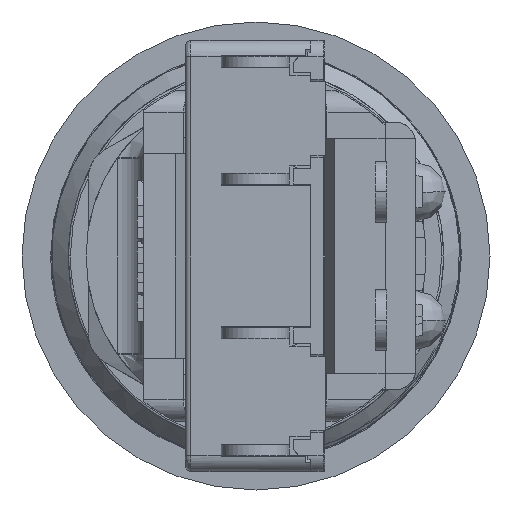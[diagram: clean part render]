
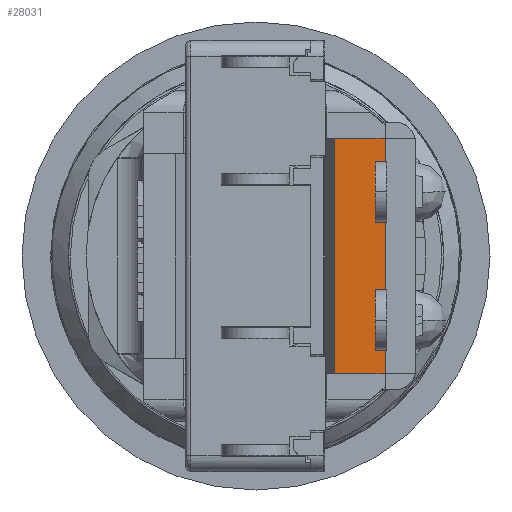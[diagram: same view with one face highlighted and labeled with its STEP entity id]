
A CAD part, front view. The second image highlights one B-rep face of the part: STEP entity #28031.
In plain terms, the highlighted planar face has unit normal (0, -1, 0).
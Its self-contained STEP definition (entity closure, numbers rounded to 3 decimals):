
#557 = VERTEX_POINT ( 'NONE', #16443 ) ;
#849 = LINE ( 'NONE', #25456, #21119 ) ;
#1069 = CARTESIAN_POINT ( 'NONE',  ( 4.805, -58.802, -23.242 ) ) ;
#1248 = CARTESIAN_POINT ( 'NONE',  ( 4.805, -58.802, -26.379 ) ) ;
#1808 = DIRECTION ( 'NONE',  ( 0., 0., 1. ) ) ;
#1859 = VECTOR ( 'NONE', #1931, 1000. ) ;
#1931 = DIRECTION ( 'NONE',  ( 0., 0., -1. ) ) ;
#2230 = CARTESIAN_POINT ( 'NONE',  ( 5.97, -58.802, -20.442 ) ) ;
#2566 = LINE ( 'NONE', #33562, #8823 ) ;
#2642 = VERTEX_POINT ( 'NONE', #13307 ) ;
#2817 = EDGE_CURVE ( 'NONE', #4234, #25916, #13945, .T. ) ;
#2869 = VECTOR ( 'NONE', #34270, 1000. ) ;
#3234 = VERTEX_POINT ( 'NONE', #24149 ) ;
#4234 = VERTEX_POINT ( 'NONE', #28651 ) ;
#4567 = FACE_OUTER_BOUND ( 'NONE', #12690, .T. ) ;
#5066 = LINE ( 'NONE', #1248, #12964 ) ;
#5144 = CARTESIAN_POINT ( 'NONE',  ( 5.52, -58.802, -20.442 ) ) ;
#5181 = VECTOR ( 'NONE', #31691, 1000. ) ;
#5797 = CARTESIAN_POINT ( 'NONE',  ( 3.64, -58.802, -19.371 ) ) ;
#5827 = DIRECTION ( 'NONE',  ( 1., 0., 0. ) ) ;
#6247 = VECTOR ( 'NONE', #31163, 1000. ) ;
#6725 = ORIENTED_EDGE ( 'NONE', *, *, #30578, .T. ) ;
#6865 = VECTOR ( 'NONE', #13894, 1000. ) ;
#7458 = VECTOR ( 'NONE', #5827, 1000. ) ;
#7626 = ORIENTED_EDGE ( 'NONE', *, *, #31998, .T. ) ;
#7913 = CARTESIAN_POINT ( 'NONE',  ( 5.52, -58.802, -23.242 ) ) ;
#8019 = DIRECTION ( 'NONE',  ( 0., -1., 0. ) ) ;
#8503 = CARTESIAN_POINT ( 'NONE',  ( 4.805, -58.802, -20.442 ) ) ;
#8823 = VECTOR ( 'NONE', #1808, 1000. ) ;
#8941 = LINE ( 'NONE', #15032, #1859 ) ;
#9331 = VERTEX_POINT ( 'NONE', #5797 ) ;
#10338 = CARTESIAN_POINT ( 'NONE',  ( 3.64, -58.802, -30.251 ) ) ;
#10455 = EDGE_CURVE ( 'NONE', #557, #33676, #849, .T. ) ;
#10607 = VERTEX_POINT ( 'NONE', #2230 ) ;
#11647 = LINE ( 'NONE', #12620, #6247 ) ;
#11694 = EDGE_CURVE ( 'NONE', #33676, #25424, #14909, .T. ) ;
#12109 = CARTESIAN_POINT ( 'NONE',  ( 5.97, -58.802, -24.811 ) ) ;
#12319 = ORIENTED_EDGE ( 'NONE', *, *, #2817, .F. ) ;
#12406 = ORIENTED_EDGE ( 'NONE', *, *, #14734, .T. ) ;
#12620 = CARTESIAN_POINT ( 'NONE',  ( 4.546, -58.802, -19.371 ) ) ;
#12690 = EDGE_LOOP ( 'NONE', ( #6725, #12319, #13220, #7626, #15758, #29955, #13232, #26429, #25047, #28739, #12406, #33364 ) ) ;
#12964 = VECTOR ( 'NONE', #22451, 1000. ) ;
#13049 = CARTESIAN_POINT ( 'NONE',  ( 5.52, -58.802, -24.811 ) ) ;
#13220 = ORIENTED_EDGE ( 'NONE', *, *, #30822, .T. ) ;
#13232 = ORIENTED_EDGE ( 'NONE', *, *, #10455, .T. ) ;
#13307 = CARTESIAN_POINT ( 'NONE',  ( 5.52, -58.802, -26.379 ) ) ;
#13339 = LINE ( 'NONE', #21309, #19615 ) ;
#13370 = LINE ( 'NONE', #12109, #26646 ) ;
#13771 = VERTEX_POINT ( 'NONE', #29318 ) ;
#13894 = DIRECTION ( 'NONE',  ( -1., 0., 0. ) ) ;
#13945 = LINE ( 'NONE', #24439, #6865 ) ;
#14734 = EDGE_CURVE ( 'NONE', #10607, #13771, #13370, .T. ) ;
#14909 = LINE ( 'NONE', #1069, #21098 ) ;
#15032 = CARTESIAN_POINT ( 'NONE',  ( 3.64, -58.802, -24.811 ) ) ;
#15624 = EDGE_CURVE ( 'NONE', #25424, #30719, #13339, .T. ) ;
#15758 = ORIENTED_EDGE ( 'NONE', *, *, #24991, .T. ) ;
#16443 = CARTESIAN_POINT ( 'NONE',  ( 5.97, -58.802, -26.379 ) ) ;
#19339 = LINE ( 'NONE', #13049, #5181 ) ;
#19615 = VECTOR ( 'NONE', #31956, 1000. ) ;
#19701 = CARTESIAN_POINT ( 'NONE',  ( 5.97, -58.802, -29.179 ) ) ;
#20465 = EDGE_CURVE ( 'NONE', #30719, #10607, #28631, .T. ) ;
#21098 = VECTOR ( 'NONE', #22286, 1000. ) ;
#21119 = VECTOR ( 'NONE', #28239, 1000. ) ;
#21309 = CARTESIAN_POINT ( 'NONE',  ( 5.52, -58.802, -24.811 ) ) ;
#21506 = EDGE_CURVE ( 'NONE', #2642, #557, #5066, .T. ) ;
#22286 = DIRECTION ( 'NONE',  ( -1., 0., 0. ) ) ;
#22451 = DIRECTION ( 'NONE',  ( 1., 0., 0. ) ) ;
#22587 = CARTESIAN_POINT ( 'NONE',  ( 5.97, -58.802, -23.242 ) ) ;
#23087 = EDGE_CURVE ( 'NONE', #9331, #13771, #11647, .T. ) ;
#23898 = CARTESIAN_POINT ( 'NONE',  ( 3.64, -58.802, -30.251 ) ) ;
#24149 = CARTESIAN_POINT ( 'NONE',  ( 5.52, -58.802, -29.179 ) ) ;
#24439 = CARTESIAN_POINT ( 'NONE',  ( 4.546, -58.802, -30.251 ) ) ;
#24991 = EDGE_CURVE ( 'NONE', #3234, #2642, #19339, .T. ) ;
#25047 = ORIENTED_EDGE ( 'NONE', *, *, #15624, .T. ) ;
#25424 = VERTEX_POINT ( 'NONE', #7913 ) ;
#25456 = CARTESIAN_POINT ( 'NONE',  ( 5.97, -58.802, -24.811 ) ) ;
#25916 = VERTEX_POINT ( 'NONE', #10338 ) ;
#26429 = ORIENTED_EDGE ( 'NONE', *, *, #11694, .T. ) ;
#26464 = PLANE ( 'NONE',  #32020 ) ;
#26513 = VERTEX_POINT ( 'NONE', #19701 ) ;
#26568 = DIRECTION ( 'NONE',  ( 1., 0., 0. ) ) ;
#26646 = VECTOR ( 'NONE', #33317, 1000. ) ;
#28031 = ADVANCED_FACE ( 'NONE', ( #4567 ), #26464, .T. ) ;
#28239 = DIRECTION ( 'NONE',  ( 0., 0., 1. ) ) ;
#28631 = LINE ( 'NONE', #8503, #7458 ) ;
#28651 = CARTESIAN_POINT ( 'NONE',  ( 5.97, -58.802, -30.251 ) ) ;
#28739 = ORIENTED_EDGE ( 'NONE', *, *, #20465, .T. ) ;
#29318 = CARTESIAN_POINT ( 'NONE',  ( 5.97, -58.802, -19.371 ) ) ;
#29955 = ORIENTED_EDGE ( 'NONE', *, *, #21506, .T. ) ;
#30578 = EDGE_CURVE ( 'NONE', #9331, #25916, #8941, .T. ) ;
#30719 = VERTEX_POINT ( 'NONE', #5144 ) ;
#30822 = EDGE_CURVE ( 'NONE', #4234, #26513, #2566, .T. ) ;
#31074 = LINE ( 'NONE', #31601, #2869 ) ;
#31163 = DIRECTION ( 'NONE',  ( 1., 0., 0. ) ) ;
#31601 = CARTESIAN_POINT ( 'NONE',  ( 4.805, -58.802, -29.179 ) ) ;
#31691 = DIRECTION ( 'NONE',  ( 0., 0., 1. ) ) ;
#31956 = DIRECTION ( 'NONE',  ( 0., 0., 1. ) ) ;
#31998 = EDGE_CURVE ( 'NONE', #26513, #3234, #31074, .T. ) ;
#32020 = AXIS2_PLACEMENT_3D ( 'NONE', #23898, #8019, #26568 ) ;
#33317 = DIRECTION ( 'NONE',  ( 0., 0., 1. ) ) ;
#33364 = ORIENTED_EDGE ( 'NONE', *, *, #23087, .F. ) ;
#33562 = CARTESIAN_POINT ( 'NONE',  ( 5.97, -58.802, -24.811 ) ) ;
#33676 = VERTEX_POINT ( 'NONE', #22587 ) ;
#34270 = DIRECTION ( 'NONE',  ( -1., 0., 0. ) ) ;
